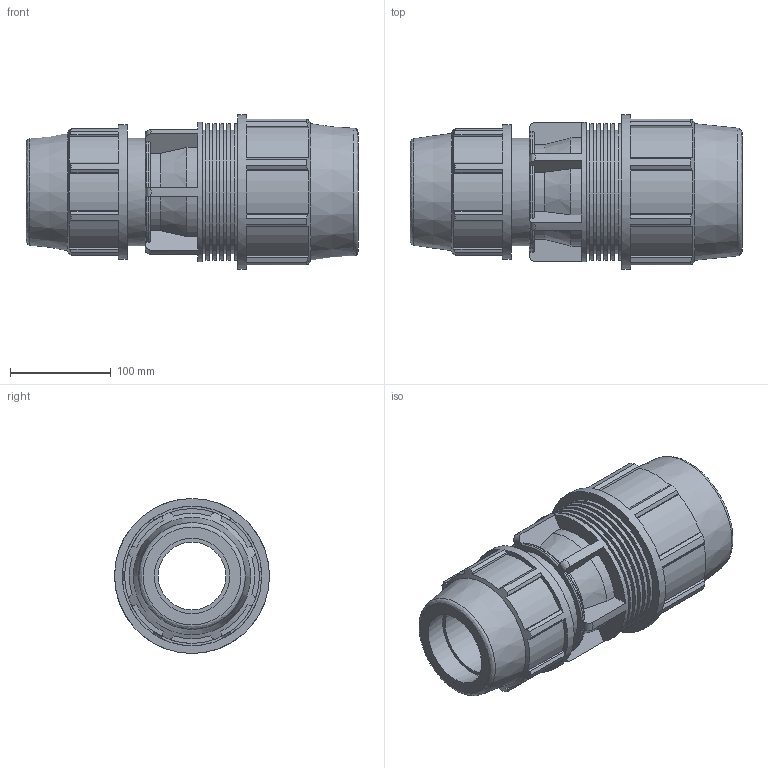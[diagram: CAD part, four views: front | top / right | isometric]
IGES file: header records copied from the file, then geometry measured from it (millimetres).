
Global section: file name: 0711060900750A.ipt; native system: Autodesk Inventor 2015; preprocessor: unknown; author: KIM; date: 20170608.042513; units: millimetre
Bounding box: 330 x 154 x 154 mm (x, y, z)
Volume: 2379241.8 mm3; surface area: 299567.8 mm2
Topology: 1 solids, 1 shells, 207 faces, 580 edges, 392 vertices
Faces by surface type: plane 123, cylinder 54, revolution 20, cone 10
Full cylindrical faces by diameter (mm): 107.2 x1, 123.2 x5, 134 x1, 135.828 x5, 138.6 x1, 154 x1
